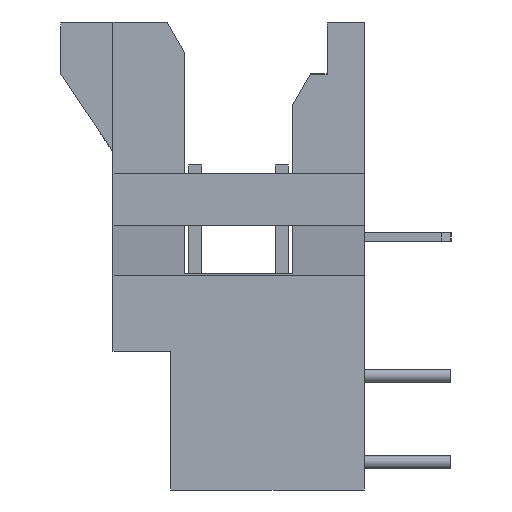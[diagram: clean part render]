
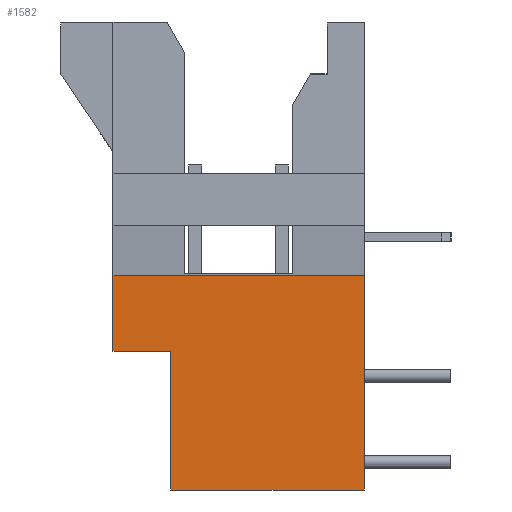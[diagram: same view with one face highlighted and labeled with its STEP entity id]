
A CAD part, left-side view. The second image highlights one B-rep face of the part: STEP entity #1582.
In plain terms, the highlighted planar face has unit normal (-1, 0, 0).
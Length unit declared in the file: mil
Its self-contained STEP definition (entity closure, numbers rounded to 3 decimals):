
#866 = VERTEX_POINT ( 'NONE', #3745 ) ;
#868 = EDGE_CURVE ( 'NONE', #892, #866, #3743, .T. ) ;
#892 = VERTEX_POINT ( 'NONE', #3794 ) ;
#1035 = VERTEX_POINT ( 'NONE', #4041 ) ;
#1037 = EDGE_CURVE ( 'NONE', #1047, #1035, #4039, .T. ) ;
#1046 = EDGE_CURVE ( 'NONE', #866, #1047, #4087, .T. ) ;
#1047 = VERTEX_POINT ( 'NONE', #4078 ) ;
#1081 = VERTEX_POINT ( 'NONE', #4145 ) ;
#1104 = VERTEX_POINT ( 'NONE', #4174 ) ;
#1106 = EDGE_CURVE ( 'NONE', #1081, #1104, #4173, .T. ) ;
#1223 = EDGE_CURVE ( 'NONE', #1104, #892, #4342, .T. ) ;
#1562 = ORIENTED_EDGE ( 'NONE', *, *, #868, .T. ) ;
#1563 = ORIENTED_EDGE ( 'NONE', *, *, #1046, .T. ) ;
#1564 = ORIENTED_EDGE ( 'NONE', *, *, #1037, .T. ) ;
#1565 = ORIENTED_EDGE ( 'NONE', *, *, #1566, .T. ) ;
#1566 = EDGE_CURVE ( 'NONE', #1035, #1081, #5282, .T. ) ;
#1567 = ORIENTED_EDGE ( 'NONE', *, *, #1106, .T. ) ;
#1582 = ADVANCED_FACE ( 'NONE', ( #5263 ), #5262, .T. ) ;
#1583 = EDGE_LOOP ( 'NONE', ( #1584, #1562, #1563, #1564, #1565, #1567 ) ) ;
#1584 = ORIENTED_EDGE ( 'NONE', *, *, #1223, .T. ) ;
#3740 = DIRECTION ( 'NONE',  ( 0., -1., 0. ) ) ;
#3741 = VECTOR ( 'NONE', #3740, 39370.079 ) ;
#3742 = CARTESIAN_POINT ( 'NONE',  ( -309., 290., 78. ) ) ;
#3743 = LINE ( 'NONE', #3742, #3741 ) ;
#3745 = CARTESIAN_POINT ( 'NONE',  ( -309., 223.5, 78. ) ) ;
#3794 = CARTESIAN_POINT ( 'NONE',  ( -309., 290., 78. ) ) ;
#4036 = DIRECTION ( 'NONE',  ( 0., -1., 0. ) ) ;
#4037 = VECTOR ( 'NONE', #4036, 39370.079 ) ;
#4038 = CARTESIAN_POINT ( 'NONE',  ( -309., 0., -82. ) ) ;
#4039 = LINE ( 'NONE', #4038, #4037 ) ;
#4041 = CARTESIAN_POINT ( 'NONE',  ( -309., 0., -82. ) ) ;
#4078 = CARTESIAN_POINT ( 'NONE',  ( -309., 223.5, -82. ) ) ;
#4079 = DIRECTION ( 'NONE',  ( 0., 0., -1. ) ) ;
#4080 = VECTOR ( 'NONE', #4079, 39370.079 ) ;
#4081 = CARTESIAN_POINT ( 'NONE',  ( -309., 223.5, -82. ) ) ;
#4087 = LINE ( 'NONE', #4081, #4080 ) ;
#4145 = CARTESIAN_POINT ( 'NONE',  ( -309., 0., 165.914 ) ) ;
#4170 = DIRECTION ( 'NONE',  ( 0., 1., 0. ) ) ;
#4171 = VECTOR ( 'NONE', #4170, 39370.079 ) ;
#4172 = CARTESIAN_POINT ( 'NONE',  ( -309., 0., 165.914 ) ) ;
#4173 = LINE ( 'NONE', #4172, #4171 ) ;
#4174 = CARTESIAN_POINT ( 'NONE',  ( -309., 290., 165.914 ) ) ;
#4339 = DIRECTION ( 'NONE',  ( 0., 0., -1. ) ) ;
#4340 = VECTOR ( 'NONE', #4339, 39370.079 ) ;
#4341 = CARTESIAN_POINT ( 'NONE',  ( -309., 290., -82. ) ) ;
#4342 = LINE ( 'NONE', #4341, #4340 ) ;
#5262 = PLANE ( 'NONE',  #5326 ) ;
#5263 = FACE_OUTER_BOUND ( 'NONE', #1583, .T. ) ;
#5279 = DIRECTION ( 'NONE',  ( 0., 0., 1. ) ) ;
#5280 = VECTOR ( 'NONE', #5279, 39370.079 ) ;
#5281 = CARTESIAN_POINT ( 'NONE',  ( -309., 0., 458. ) ) ;
#5282 = LINE ( 'NONE', #5281, #5280 ) ;
#5322 = DIRECTION ( 'NONE',  ( 0., 0., 1. ) ) ;
#5323 = DIRECTION ( 'NONE',  ( -1., 0., 0. ) ) ;
#5325 = CARTESIAN_POINT ( 'NONE',  ( -309., 0., -82. ) ) ;
#5326 = AXIS2_PLACEMENT_3D ( 'NONE', #5325, #5323, #5322 ) ;
